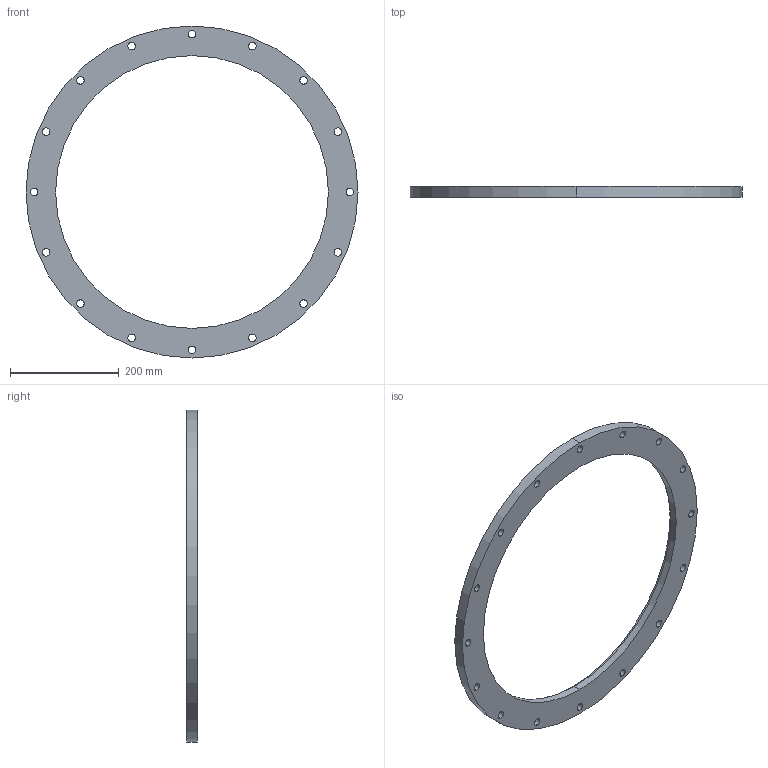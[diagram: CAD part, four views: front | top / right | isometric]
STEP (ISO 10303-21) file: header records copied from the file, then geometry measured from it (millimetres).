
FILE_DESCRIPTION (( 'STEP AP214' ), '1' );
FILE_NAME ('W5KL500.STEP', '2019-04-01T14:30:42', ( '' ), ( '' ), 'SwSTEP 2.0', 'SolidWorks 2018', '' );
FILE_SCHEMA (( 'AUTOMOTIVE_DESIGN' ));
Length unit declared in the file: millimetre
Products named in the file (1): W5KL500
Bounding box: 610 x 20 x 610 mm (x, y, z)
Volume: 1813780.5 mm3; surface area: 269174.2 mm2
Topology: 1 solids, 1 shells, 41 faces, 114 edges, 76 vertices
Faces by surface type: cylinder 38, plane 3
Entity records: 1466 total; most frequent: DIRECTION 274, CARTESIAN_POINT 232, ORIENTED_EDGE 228, AXIS2_PLACEMENT_3D 118, EDGE_CURVE 114, VERTEX_POINT 76, EDGE_LOOP 76, CIRCLE 76
